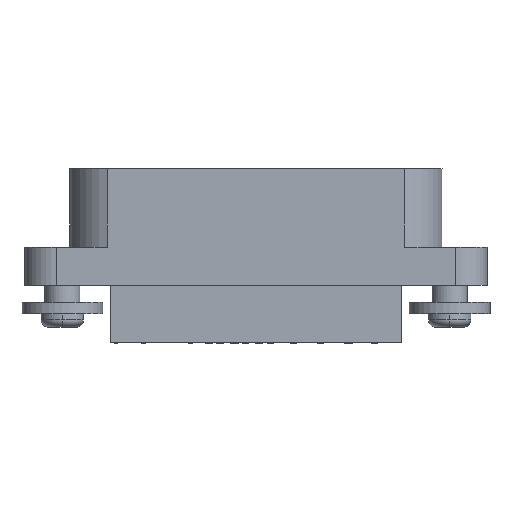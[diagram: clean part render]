
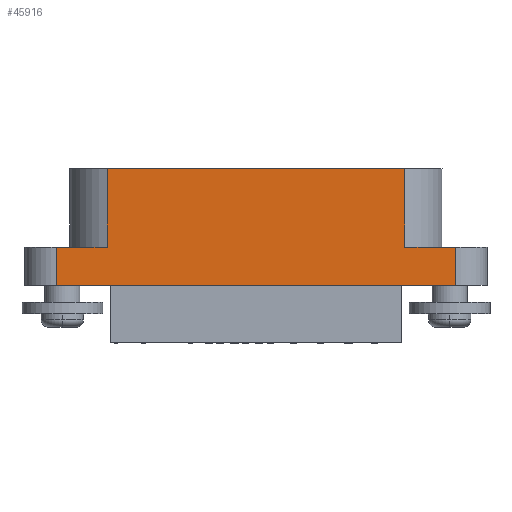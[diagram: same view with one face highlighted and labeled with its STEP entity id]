
A CAD part, front view. The second image highlights one B-rep face of the part: STEP entity #45916.
In plain terms, the highlighted planar face has unit normal (0, -1, 0).
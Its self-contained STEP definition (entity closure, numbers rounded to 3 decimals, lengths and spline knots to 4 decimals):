
#716 = DIRECTION ( 'NONE',  ( 0., 0., -1. ) ) ;
#2545 = CARTESIAN_POINT ( 'NONE',  ( -0.9226, -0.3305, 0.5039 ) ) ;
#8955 = DIRECTION ( 'NONE',  ( -1., 0., 0. ) ) ;
#9139 = EDGE_CURVE ( 'NONE', #142823, #138111, #33168, .T. ) ;
#9806 = CARTESIAN_POINT ( 'NONE',  ( 1.2374, -0.3305, 0.0177 ) ) ;
#12585 = CARTESIAN_POINT ( 'NONE',  ( 1.4343, -0.3305, 0.0177 ) ) ;
#15109 = DIRECTION ( 'NONE',  ( 1., 0., 0. ) ) ;
#21242 = CARTESIAN_POINT ( 'NONE',  ( 0.9226, -0.3305, 0.5039 ) ) ;
#24666 = VERTEX_POINT ( 'NONE', #2545 ) ;
#24770 = ORIENTED_EDGE ( 'NONE', *, *, #85675, .T. ) ;
#24991 = CARTESIAN_POINT ( 'NONE',  ( 0., -0.3305, 0. ) ) ;
#25784 = CARTESIAN_POINT ( 'NONE',  ( 1.2374, -0.3305, -0.2193 ) ) ;
#31619 = CARTESIAN_POINT ( 'NONE',  ( 0.9226, -0.3305, 0.0177 ) ) ;
#33168 = LINE ( 'NONE', #117704, #103124 ) ;
#38743 = VERTEX_POINT ( 'NONE', #46423 ) ;
#40420 = CARTESIAN_POINT ( 'NONE',  ( -1.4343, -0.3305, -0.2193 ) ) ;
#40729 = ORIENTED_EDGE ( 'NONE', *, *, #119843, .F. ) ;
#42451 = VECTOR ( 'NONE', #95525, 39.3701 ) ;
#42662 = VERTEX_POINT ( 'NONE', #94141 ) ;
#43440 = ORIENTED_EDGE ( 'NONE', *, *, #112014, .F. ) ;
#45499 = CARTESIAN_POINT ( 'NONE',  ( 0.9226, -0.3305, 3.6301 ) ) ;
#45916 = ADVANCED_FACE ( 'NONE', ( #112382 ), #123938, .T. ) ;
#46197 = VECTOR ( 'NONE', #52697, 39.3701 ) ;
#46423 = CARTESIAN_POINT ( 'NONE',  ( -1.2374, -0.3305, 0.0177 ) ) ;
#47122 = VERTEX_POINT ( 'NONE', #129770 ) ;
#49099 = AXIS2_PLACEMENT_3D ( 'NONE', #24991, #94255, #104367 ) ;
#49688 = ORIENTED_EDGE ( 'NONE', *, *, #84061, .T. ) ;
#50246 = EDGE_LOOP ( 'NONE', ( #40729, #126402, #43440, #125740, #120862, #49688, #52096, #24770 ) ) ;
#52096 = ORIENTED_EDGE ( 'NONE', *, *, #110550, .F. ) ;
#52347 = DIRECTION ( 'NONE',  ( 0., 0., -1. ) ) ;
#52697 = DIRECTION ( 'NONE',  ( -1., 0., 0. ) ) ;
#54321 = CARTESIAN_POINT ( 'NONE',  ( -0.9226, -0.3305, 3.6301 ) ) ;
#58082 = LINE ( 'NONE', #12585, #87259 ) ;
#64283 = VECTOR ( 'NONE', #15109, 39.3701 ) ;
#68468 = CARTESIAN_POINT ( 'NONE',  ( -1.2374, -0.3305, -0.2193 ) ) ;
#69368 = VERTEX_POINT ( 'NONE', #68468 ) ;
#78022 = LINE ( 'NONE', #45499, #82493 ) ;
#81965 = LINE ( 'NONE', #21242, #127114 ) ;
#82493 = VECTOR ( 'NONE', #716, 39.3701 ) ;
#84061 = EDGE_CURVE ( 'NONE', #24666, #42662, #130893, .T. ) ;
#85675 = EDGE_CURVE ( 'NONE', #38743, #69368, #108660, .T. ) ;
#87259 = VECTOR ( 'NONE', #102124, 39.3701 ) ;
#89543 = LINE ( 'NONE', #124198, #64283 ) ;
#94141 = CARTESIAN_POINT ( 'NONE',  ( -0.9226, -0.3305, 0.0177 ) ) ;
#94255 = DIRECTION ( 'NONE',  ( 0., -1., 0. ) ) ;
#95525 = DIRECTION ( 'NONE',  ( 0., 0., -1. ) ) ;
#95678 = CARTESIAN_POINT ( 'NONE',  ( -1.2374, -0.3305, 0. ) ) ;
#102124 = DIRECTION ( 'NONE',  ( 1., 0., 0. ) ) ;
#103124 = VECTOR ( 'NONE', #106857, 39.3701 ) ;
#104367 = DIRECTION ( 'NONE',  ( 0., 0., -1. ) ) ;
#104780 = VECTOR ( 'NONE', #52347, 39.3701 ) ;
#106857 = DIRECTION ( 'NONE',  ( 0., 0., 1. ) ) ;
#108660 = LINE ( 'NONE', #95678, #104780 ) ;
#109950 = VERTEX_POINT ( 'NONE', #31619 ) ;
#110550 = EDGE_CURVE ( 'NONE', #38743, #42662, #58082, .T. ) ;
#112014 = EDGE_CURVE ( 'NONE', #109950, #138111, #89543, .T. ) ;
#112382 = FACE_OUTER_BOUND ( 'NONE', #50246, .T. ) ;
#117704 = CARTESIAN_POINT ( 'NONE',  ( 1.2374, -0.3305, 0. ) ) ;
#119843 = EDGE_CURVE ( 'NONE', #142823, #69368, #138653, .T. ) ;
#120862 = ORIENTED_EDGE ( 'NONE', *, *, #123853, .T. ) ;
#123853 = EDGE_CURVE ( 'NONE', #47122, #24666, #81965, .T. ) ;
#123938 = PLANE ( 'NONE',  #49099 ) ;
#124198 = CARTESIAN_POINT ( 'NONE',  ( 1.4343, -0.3305, 0.0177 ) ) ;
#125740 = ORIENTED_EDGE ( 'NONE', *, *, #131878, .F. ) ;
#126402 = ORIENTED_EDGE ( 'NONE', *, *, #9139, .T. ) ;
#127114 = VECTOR ( 'NONE', #8955, 39.3701 ) ;
#129770 = CARTESIAN_POINT ( 'NONE',  ( 0.9226, -0.3305, 0.5039 ) ) ;
#130893 = LINE ( 'NONE', #54321, #42451 ) ;
#131878 = EDGE_CURVE ( 'NONE', #47122, #109950, #78022, .T. ) ;
#138111 = VERTEX_POINT ( 'NONE', #9806 ) ;
#138653 = LINE ( 'NONE', #40420, #46197 ) ;
#142823 = VERTEX_POINT ( 'NONE', #25784 ) ;
